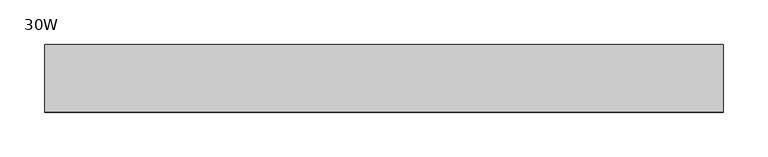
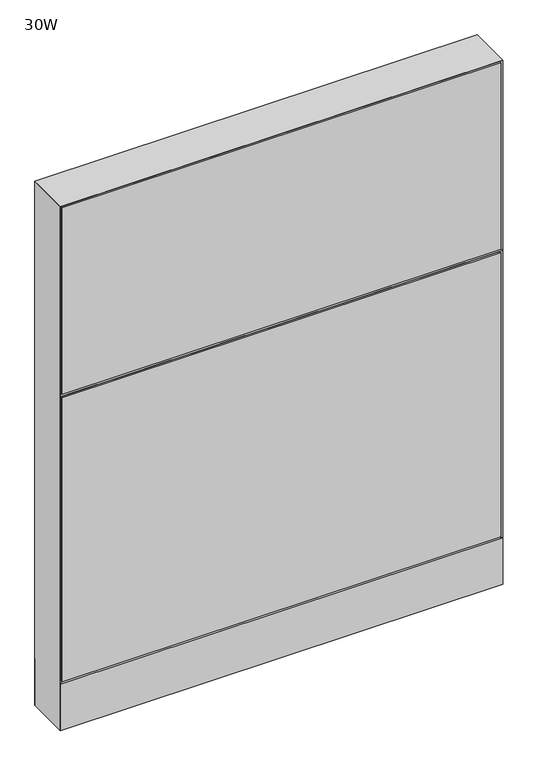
"""IFC4 building model written with IfcOpenShell, lengths in millimetres: furniture geometry, Steelcase - Montage - Frame - 38H - Enhanced Monolithic - Base Cavity : 30W."""

import ifcopenshell
import ifcopenshell.guid

model = None  # the IFC model being written
_history = None  # IfcOwnerHistory: only IFC2X3 demands one
_inside = {}  # id of a spatial element -> (the spatial element, [elements in it])
_under = {}  # id of a project, library or spatial element -> (it, [spatial elements below it])
_declared = {}  # id of a project -> (the project, [libraries it declares])
_typed = {}  # id of a type object -> (the type object, [elements of that type])
_made_of = {}  # id of a material, layer set ... -> (it, [elements and type objects made of it])


def new_model(schema):
    """Start an empty IFC model of exactly this schema.

    Asked for "IFC4X3", IfcOpenShell would pick the latest addendum, in which some entities
    have other attributes; the version numbers below select the first issue.
    IFC2X3 requires an IfcOwnerHistory on every rooted entity: one is made here for all.
    """
    global model, _history
    if schema == "IFC4X3":
        model = ifcopenshell.file(schema_version=(4, 3, 0, 0))
    else:
        model = ifcopenshell.file(schema=schema)
    _inside.clear()
    _under.clear()
    _declared.clear()
    _typed.clear()
    _made_of.clear()
    _history = None
    if model.schema == "IFC2X3":
        org = make("IfcOrganization", Name="unknown")
        user = make(
            "IfcPersonAndOrganization",
            ThePerson=make("IfcPerson", FamilyName="unknown"),
            TheOrganization=org,
        )
        app = make(
            "IfcApplication",
            ApplicationDeveloper=org,
            Version="unknown",
            ApplicationFullName="unknown",
            ApplicationIdentifier="unknown",
        )
        _history = make(
            "IfcOwnerHistory",
            OwningUser=user,
            OwningApplication=app,
            ChangeAction="ADDED",
            CreationDate=0,
        )
    return model


def make(cls, **values):
    """One entity of the class cls with the attributes given. An attribute that is None is left unset."""
    return model.create_entity(
        cls, **{name: value for name, value in values.items() if value is not None}
    )


def rooted(cls, **values):
    """An entity with a GlobalId (a new one), such as an element, a storey or a relation."""
    return make(cls, GlobalId=ifcopenshell.guid.new(), OwnerHistory=_history, **values)


def si_unit(unit_type, name, prefix=None):
    """IfcSIUnit, for example si_unit("LENGTHUNIT", "METRE", prefix="MILLI")."""
    return make("IfcSIUnit", UnitType=unit_type, Prefix=prefix, Name=name)


def assignment(units):
    """IfcUnitAssignment: the units of a project."""
    return None if units is None else make("IfcUnitAssignment", Units=units)


def point(xyz):
    """IfcCartesianPoint."""
    return None if xyz is None else make("IfcCartesianPoint", Coordinates=xyz)


def direction(xyz):
    """IfcDirection."""
    return None if xyz is None else make("IfcDirection", DirectionRatios=xyz)


def frame(location, z_axis=None, x_axis=None):
    """IfcAxis2Placement3D, a coordinate frame: its origin and axes. An axis left out is left unset."""
    return make(
        "IfcAxis2Placement3D",
        Location=point(location),
        Axis=direction(z_axis),
        RefDirection=direction(x_axis),
    )


def frame_2d(location, x_axis=None):
    """IfcAxis2Placement2D, a coordinate frame in the plane: its origin and x axis."""
    return make(
        "IfcAxis2Placement2D", Location=point(location), RefDirection=direction(x_axis)
    )


def origin():
    """The frame at (0, 0, 0) with its axes left unset."""
    return frame((0.0, 0.0, 0.0))


def origin_with_axes():
    """The frame at (0, 0, 0) with the z axis (0, 0, 1) and the x axis (1, 0, 0) written out."""
    return frame((0.0, 0.0, 0.0), z_axis=(0.0, 0.0, 1.0), x_axis=(1.0, 0.0, 0.0))


def place(relative_to, where):
    """IfcLocalPlacement: puts the frame where relative to a parent placement (None: the world)."""
    return make(
        "IfcLocalPlacement", PlacementRelTo=relative_to, RelativePlacement=where
    )


def context(
    kind, dimensions, precision=None, world=None, true_north=None, identifier=None
):
    """IfcGeometricRepresentationContext, for example the 3D "Model" context."""
    return make(
        "IfcGeometricRepresentationContext",
        ContextIdentifier=identifier,
        ContextType=kind,
        CoordinateSpaceDimension=dimensions,
        Precision=precision,
        WorldCoordinateSystem=world,
        TrueNorth=true_north,
    )


def project(units=None, contexts=None):
    """IfcProject with its units and contexts."""
    return rooted(
        "IfcProject",
        Name="project",
        RepresentationContexts=contexts,
        UnitsInContext=assignment(units),
    )


def spatial(cls, under=None, at=None, **own):
    """A site, building, storey or space (cls), placed at a placement, below another one or the project."""
    s = rooted(cls, ObjectPlacement=at, **own)
    if under is not None:
        _under.setdefault(under.id(), (under, []))[1].append(s)
    return s


def polyline(points):
    """IfcPolyline through the points."""
    return make("IfcPolyline", Points=[point(p) for p in points])


def circle_curve(where, radius):
    """IfcCircle in the frame where."""
    return make("IfcCircle", Position=where, Radius=radius)


def trimmed(basis, trim1, trim2, sense, master):
    """IfcTrimmedCurve: the piece of a basis curve between two trims."""
    return make(
        "IfcTrimmedCurve",
        BasisCurve=basis,
        Trim1=trim1,
        Trim2=trim2,
        SenseAgreement=sense,
        MasterRepresentation=master,
    )


def segment(curve, same_sense, transition):
    """IfcCompositeCurveSegment."""
    return make(
        "IfcCompositeCurveSegment",
        Transition=transition,
        SameSense=same_sense,
        ParentCurve=curve,
    )


def composite_curve(segments, self_intersect=None):
    """IfcCompositeCurve: segments joined end to end."""
    return make("IfcCompositeCurve", Segments=segments, SelfIntersect=self_intersect)


def outline(outer, holes=None, kind="AREA"):
    """IfcArbitraryClosedProfileDef: a profile drawn as a closed curve; with holes, ...WithVoids."""
    if holes is None:
        return make("IfcArbitraryClosedProfileDef", ProfileType=kind, OuterCurve=outer)
    return make(
        "IfcArbitraryProfileDefWithVoids",
        ProfileType=kind,
        OuterCurve=outer,
        InnerCurves=holes,
    )


def extrude(swept, where, along, depth):
    """IfcExtrudedAreaSolid: the profile swept, set in the frame where, extruded along a direction by depth."""
    return make(
        "IfcExtrudedAreaSolid",
        SweptArea=swept,
        Position=where,
        ExtrudedDirection=direction(along),
        Depth=depth,
    )


def faces_of(points, faces, orient=None, outer=None):
    """IfcFace entities. A face is a list of loops; a loop is a list of indices into points, from 0.

    orient and outer hold one flag for each loop. By default every Orientation is true, the
    first loop of a face is its IfcFaceOuterBound and the others are IfcFaceBound.
    """
    made = []
    for i, loops in enumerate(faces):
        bounds = []
        for j, loop in enumerate(loops):
            is_outer = j == 0 if outer is None else outer[i][j]
            bounds.append(
                make(
                    "IfcFaceOuterBound" if is_outer else "IfcFaceBound",
                    Bound=make("IfcPolyLoop", Polygon=[points[k] for k in loop]),
                    Orientation=True if orient is None else orient[i][j],
                )
            )
        made.append(make("IfcFace", Bounds=bounds))
    return made


def faceted_brep(points, faces, orient=None, outer=None, voids=None):
    """IfcFacetedBrep: a solid bounded by flat faces; with voids (closed shells), ...WithVoids."""
    shared = [point(p) for p in points]
    hull = make("IfcClosedShell", CfsFaces=faces_of(shared, faces, orient, outer))
    if voids is None:
        return make("IfcFacetedBrep", Outer=hull)
    return make(
        "IfcFacetedBrepWithVoids",
        Outer=hull,
        Voids=[
            make(cls, CfsFaces=faces_of(shared, fs, o, b)) for cls, fs, o, b in voids
        ],
    )


def shape(context_of_items, identifier, shape_type, items):
    """IfcShapeRepresentation: the items that make up one representation, for example the "Body"."""
    return make(
        "IfcShapeRepresentation",
        ContextOfItems=context_of_items,
        RepresentationIdentifier=identifier,
        RepresentationType=shape_type,
        Items=items,
    )


def source(mapping_origin, context_of_items, identifier, shape_type, items):
    """IfcRepresentationMap: a shape defined once, which mapped items show again and again."""
    return make(
        "IfcRepresentationMap",
        MappingOrigin=mapping_origin,
        MappedRepresentation=shape(context_of_items, identifier, shape_type, items),
    )


def transform(
    local_origin,
    x_axis=None,
    y_axis=None,
    z_axis=None,
    scale=None,
    scale2=None,
    scale3=None,
    uniform=True,
):
    """IfcCartesianTransformationOperator3D, or its non-uniform kind. x_axis, y_axis, z_axis: its Axis1, 2, 3."""
    if uniform:
        return make(
            "IfcCartesianTransformationOperator3D",
            Axis1=direction(x_axis),
            Axis2=direction(y_axis),
            LocalOrigin=point(local_origin),
            Scale=scale,
            Axis3=direction(z_axis),
        )
    return make(
        "IfcCartesianTransformationOperator3DnonUniform",
        Axis1=direction(x_axis),
        Axis2=direction(y_axis),
        LocalOrigin=point(local_origin),
        Scale=scale,
        Axis3=direction(z_axis),
        Scale2=scale2,
        Scale3=scale3,
    )


def mapped(mapping_source, mapping_target):
    """IfcMappedItem: shows the shape of a source again, moved by a transform."""
    return make(
        "IfcMappedItem", MappingSource=mapping_source, MappingTarget=mapping_target
    )


def made_of(thing, what):
    """Note that an element or type object is made of a material, layer set ...; save() writes the relation."""
    if what is not None:
        _made_of.setdefault(what.id(), (what, []))[1].append(thing)
    return thing


def element(
    cls,
    number,
    at=None,
    inside=None,
    cuts=None,
    type_object=None,
    material=None,
    context=None,
    identifier="Body",
    shape_type=None,
    held_by="IfcProductDefinitionShape",
    body=None,
    shapes=None,
    **own,
):
    """One element of the class cls, such as IfcWall. Its Tag is "e" and its number.

    at: its placement. inside: the storey or other place that contains it. cuts: it is an
    opening in that element (IfcRelVoidsElement). A single representation is given by context,
    identifier, shape_type and body (its items); several are given by shapes. held_by: the class
    of the entity that holds the representations. save() writes the other relations.
    """
    e = rooted(cls, Tag="e%d" % number, ObjectPlacement=at, **own)
    if body is not None:
        shapes = [shape(context, identifier, shape_type, body)]
    if shapes is not None:
        e.Representation = make(held_by, Representations=shapes)
    if inside is not None:
        _inside.setdefault(inside.id(), (inside, []))[1].append(e)
    if cuts is not None:
        rooted(
            "IfcRelVoidsElement", RelatingBuildingElement=cuts, RelatedOpeningElement=e
        )
    if type_object is not None:
        _typed.setdefault(type_object.id(), (type_object, []))[1].append(e)
    return made_of(e, material)


def aggregate(whole, parts):
    """IfcRelAggregates: a whole, such as a stair, and the parts it consists of."""
    return rooted("IfcRelAggregates", RelatingObject=whole, RelatedObjects=parts)


def save(model, path):
    """Write the relations noted so far, then the file.

    IfcRelAggregates (storeys below a building ...), IfcRelContainedInSpatialStructure (elements
    in a storey), IfcRelDefinesByType, IfcRelAssociatesMaterial and IfcRelDeclares: one each for
    every whole, place, type object, material and project.
    """
    for whole, parts in _under.values():
        aggregate(whole, parts)
    for where, things in _inside.values():
        rooted(
            "IfcRelContainedInSpatialStructure",
            RelatedElements=things,
            RelatingStructure=where,
        )
    for kind, things in _typed.values():
        rooted("IfcRelDefinesByType", RelatedObjects=things, RelatingType=kind)
    for what, things in _made_of.values():
        rooted("IfcRelAssociatesMaterial", RelatedObjects=things, RelatingMaterial=what)
    for by, libraries in _declared.values():
        rooted("IfcRelDeclares", RelatingContext=by, RelatedDefinitions=libraries)
    model.write(path)


def furniture_30w_19db9eaf(model_context):
    return source(origin(), model_context, "Body", "SolidModel", [
        extrude(outline(polyline([(3.175, 31.7500194), (3.175, 38.1000194), (758.825, 38.1000194), (758.825, 31.7500194), (3.175, 31.7500194)])), frame((0.0, 0.0, 92.075), z_axis=(0.0, 0.0, 1.0), x_axis=(1.0, 0.0, 0.0)), (0.0, 0.0, 1.0), 863.6),
        faceted_brep([(0.0, -38.1026297, 612.775), (762.0, -38.1026297, 612.775), (755.6500047, -31.7526299, 619.1249997), (6.3499917, -31.7526299, 619.1249997), (6.3499917, -31.7526299, 606.4250003), (755.6500047, -31.7526299, 606.4250003)], [[[0, 1, 2, 3]], [[1, 0, 4, 5]], [[3, 2, 5, 4]], [[0, 3, 4]], [[2, 1, 5]]]),
        extrude(outline(polyline([(3.175, -31.7500194), (758.825, -31.7500194), (758.825, -38.1000194), (3.175, -38.1000194), (3.175, -31.7500194)])), frame((0.0, 0.0, 92.075), z_axis=(0.0, 0.0, 1.0), x_axis=(1.0, 0.0, 0.0)), (0.0, 0.0, 1.0), 517.525),
        extrude(outline(polyline([(3.175, -31.7500194), (758.825, -31.7500194), (758.825, -38.1000194), (3.175, -38.1000194), (3.175, -31.7500194)])), frame((0.0, 0.0, 615.95), z_axis=(0.0, 0.0, 1.0), x_axis=(1.0, 0.0, 0.0)), (0.0, 0.0, 1.0), 339.725),
        extrude(outline(polyline([(6.350003, -31.7499985), (755.649997, -31.7499985), (762.0, -38.1000015), (0.0, -38.1000015), (6.350003, -31.7499985)])), frame((0.0, 0.0, 4.064), z_axis=(0.0, 0.0, 1.0), x_axis=(1.0, 0.0, 0.0)), (0.0, 0.0, 1.0), 84.835997),
        extrude(outline(polyline([(6.3500002, 31.7500017), (0.0, 38.1000015), (762.0, 38.1000015), (755.6500002, 31.7500017), (6.3500002, 31.7500017)])), frame((0.0, 0.0, 4.064), z_axis=(0.0, 0.0, 1.0), x_axis=(1.0, 0.0, 0.0)), (0.0, 0.0, 1.0), 84.835997),
        faceted_brep([(762.0, -38.1000015, 958.85), (0.0, -38.1000015, 958.85), (6.3500484, -31.749953, 952.4999516), (755.6499516, -31.749953, 952.4999516), (6.3500484, 31.749953, 952.4999516), (755.6499516, 31.749953, 952.4999516), (0.0, 38.1000015, 958.85), (762.0, 38.1000015, 958.85)], [[[0, 1, 2, 3]], [[3, 2, 4, 5]], [[6, 7, 5, 4]], [[1, 0, 7, 6]], [[2, 1, 6, 4]], [[0, 3, 5, 7]]]),
        extrude(outline(composite_curve([segment(trimmed(circle_curve(frame_2d((44.45, 0.0)), 15.24), [point((29.21, 0.0))], [point((59.69, 0.0))], False, "CARTESIAN"), True, "CONTINUOUS"), segment(trimmed(circle_curve(frame_2d((44.45, 0.0)), 15.24), [point((59.69, 0.0))], [point((29.21, 0.0))], False, "CARTESIAN"), True, "CONTINUOUS")], self_intersect=False)), origin_with_axes(), (0.0, 0.0, 1.0), 4.064),
        extrude(outline(composite_curve([segment(trimmed(circle_curve(frame_2d((717.55, 0.0)), 15.24), [point((702.31, 0.0))], [point((732.79, 0.0))], False, "CARTESIAN"), True, "CONTINUOUS"), segment(trimmed(circle_curve(frame_2d((717.55, 0.0)), 15.24), [point((732.79, 0.0))], [point((702.31, 0.0))], False, "CARTESIAN"), True, "CONTINUOUS")], self_intersect=False)), origin_with_axes(), (0.0, 0.0, 1.0), 4.064),
        faceted_brep([(762.0, -38.1000106, 4.064), (762.0, 38.1000015, 4.064), (762.0, 38.1000015, 958.85), (762.0, -38.1000106, 958.8499637), (0.0, 38.1000015, 4.064), (0.0, -38.1000015, 4.064), (0.0, -38.1000015, 958.85), (0.0, 38.1000015, 958.85), (755.6499879, 31.7500017, 606.425), (6.35, 31.7500017, 606.425), (6.3499998, 31.7500017, 619.125), (755.6499879, 31.7500017, 619.125), (6.35, -31.7499985, 619.125), (755.6499879, -31.7499985, 619.125), (6.350003, -31.7499985, 606.425), (755.6499879, -31.7499985, 606.425), (6.35, 31.7500015, 4.064), (6.35, -31.7500015, 4.064), (755.6499879, 31.7499894, 4.064), (755.6499879, -31.7499985, 4.064), (6.35, 31.7500015, 952.5), (6.35, -31.7500015, 952.5), (755.6499879, -31.7499985, 952.4999516), (755.6499879, 31.7499896, 952.4999516)], [[[0, 1, 2, 3]], [[4, 5, 6, 7]], [[8, 9, 10, 11]], [[11, 10, 12, 13]], [[13, 12, 14, 15]], [[9, 8, 15, 14]], [[16, 17, 5, 4]], [[18, 1, 0, 19]], [[16, 4, 7, 20, 10, 9]], [[5, 17, 14, 12, 21, 6]], [[17, 16, 9, 14]], [[12, 10, 20, 21]], [[18, 19, 15, 8]], [[11, 13, 22, 23]], [[19, 0, 3, 22, 13, 15]], [[1, 18, 8, 11, 23, 2]], [[7, 6, 21, 20]], [[3, 2, 23, 22]]]),
    ])


if __name__ == "__main__":
    model = new_model("IFC4")
    model_context = context("Model", 3, world=origin())
    ifc_project = project(units=[si_unit("LENGTHUNIT", "METRE", prefix="MILLI")], contexts=[model_context])
    site = spatial("IfcSite", under=ifc_project)
    building = spatial("IfcBuilding", under=site)
    placement = place(None, origin())
    furniture_30w_shape = furniture_30w_19db9eaf(model_context)
    element("IfcFurniture", 1, ObjectType="Steelcase - Montage - Frame - 38H - Enhanced Monolithic - Base Cavity : 30W", at=placement, inside=building, context=model_context, shape_type="MappedRepresentation", body=[
        mapped(furniture_30w_shape, transform((0.0, 0.0, 0.0), x_axis=(1.0, 0.0, 0.0), y_axis=(0.0, 1.0, 0.0), z_axis=(0.0, 0.0, 1.0))),
    ])
    save(model, "model.ifc")
